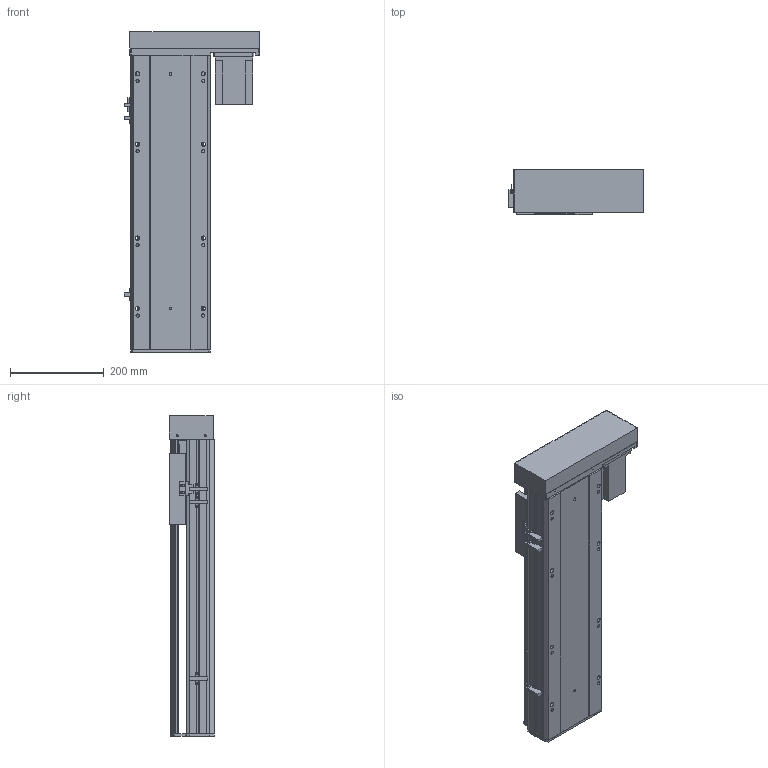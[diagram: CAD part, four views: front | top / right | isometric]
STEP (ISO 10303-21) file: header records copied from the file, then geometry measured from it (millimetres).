
FILE_DESCRIPTION (( 'STEP AP203' ), '1' );
FILE_NAME ('Y170-D10-S400-BR-P750W.STEP', '2020-01-21T12:16:25', ( '微软用户' ), ( '微软中国' ), 'SwSTEP 2.0', 'SolidWorks 2017', '' );
FILE_SCHEMA (( 'CONFIG_CONTROL_DESIGN' ));
Length unit declared in the file: millimetre
Products named in the file (12): 侂狟750W; EGH20賑輸_蕼偞; Y170-D10-S400-BR-P750W; Y雄赽釱-耜蚾; Y170-陔遴奻裔-BR; Y-BL.BR-俋欶; Y--BL蟀諉啣-陔遴-; Y170耜裔--準---; YD-Y100-135-新外置传感挡片(通用）; 170--掛极-BR; Y100-135俋离換覜ん; Y170-BL-P750W楊擘啣
Assembly tree (14 placements, depth 2):
  Y170-D10-S400-BR-P750W
    Y170耜裔--準---
    170--掛极-BR
    Y170-BL-P750W楊擘啣
    侂狟750W
    EGH20賑輸_蕼偞  x2
    Y雄赽釱-耜蚾
    Y170-陔遴奻裔-BR
    Y-BL.BR-俋欶
    Y--BL蟀諉啣-陔遴-
    YD-Y100-135-新外置传感挡片(通用）
    Y100-135俋离換覜ん  x3
Bounding box: 289 x 97 x 683.5 mm (x, y, z)
Volume: 3851189.1 mm3; surface area: 1270552.5 mm2
Topology: 14 solids, 14 shells, 897 faces, 2498 edges, 1648 vertices
Faces by surface type: plane 443, cylinder 438, cone 16
Entity records: 28010 total; most frequent: CARTESIAN_POINT 4846, DIRECTION 4668, ORIENTED_EDGE 4492, EDGE_CURVE 2246, AXIS2_PLACEMENT_3D 1650, VERTEX_POINT 1492, VECTOR 1368, LINE 1368
